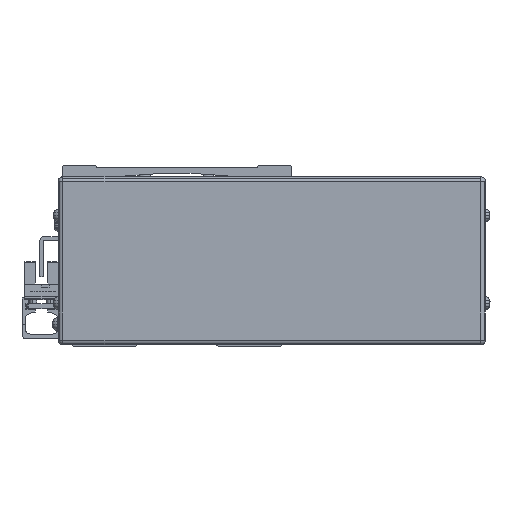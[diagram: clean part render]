
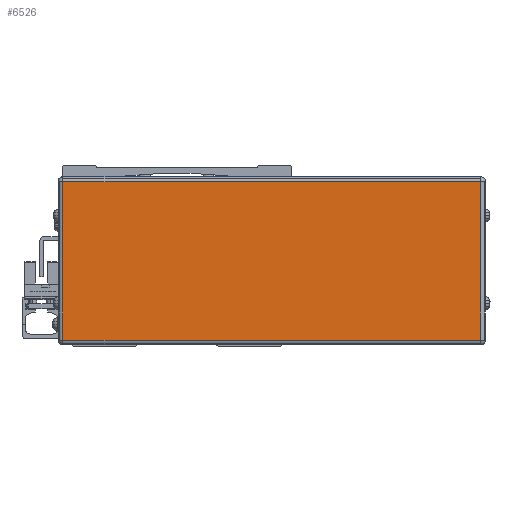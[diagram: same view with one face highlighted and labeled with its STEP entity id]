
A CAD part, front view. The second image highlights one B-rep face of the part: STEP entity #6526.
In plain terms, the highlighted planar face has unit normal (0, -1, 0).
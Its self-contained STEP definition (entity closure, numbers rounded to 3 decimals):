
#6526=ADVANCED_FACE('',(#13679),#13680,.T.);
#13679=FACE_OUTER_BOUND('',#22994,.T.);
#13680=PLANE('',#22995);
#22994=EDGE_LOOP('',(#41650,#41651,#41652,#41653));
#22995=AXIS2_PLACEMENT_3D('',#41654,#41655,#41656);
#41650=ORIENTED_EDGE('',*,*,#51091,.F.);
#41651=ORIENTED_EDGE('',*,*,#52525,.F.);
#41652=ORIENTED_EDGE('',*,*,#50610,.F.);
#41653=ORIENTED_EDGE('',*,*,#50939,.F.);
#41654=CARTESIAN_POINT('',(39.,-288.778,-42.5));
#41655=DIRECTION('',(0.0,-1.0,0.0));
#41656=DIRECTION('',(1.0,0.0,0.0));
#50610=EDGE_CURVE('',#61621,#61623,#61624,.T.);
#50939=EDGE_CURVE('',#59185,#61621,#62162,.T.);
#51091=EDGE_CURVE('',#62389,#59185,#62391,.T.);
#52525=EDGE_CURVE('',#61623,#62389,#64569,.T.);
#59185=VERTEX_POINT('',#73632);
#61621=VERTEX_POINT('',#77192);
#61623=VERTEX_POINT('',#77194);
#61624=LINE('',#77195,#77196);
#62162=LINE('',#77915,#77916);
#62389=VERTEX_POINT('',#78300);
#62391=LINE('',#78302,#78303);
#64569=LINE('',#81401,#81402);
#73632=CARTESIAN_POINT('',(-46.7,-288.778,-40.5));
#77192=CARTESIAN_POINT('',(-46.7,-288.778,24.5));
#77194=CARTESIAN_POINT('',(124.7,-288.778,24.5));
#77195=CARTESIAN_POINT('',(39.,-288.778,24.5));
#77196=VECTOR('',#92408,10.0);
#77915=CARTESIAN_POINT('',(-46.7,-288.778,-42.5));
#77916=VECTOR('',#92913,10.0);
#78300=CARTESIAN_POINT('',(124.7,-288.778,-40.5));
#78302=CARTESIAN_POINT('',(39.,-288.778,-40.5));
#78303=VECTOR('',#93081,10.0);
#81401=CARTESIAN_POINT('',(124.7,-288.778,-42.5));
#81402=VECTOR('',#94799,10.0);
#92408=DIRECTION('',(1.0,0.0,0.0));
#92913=DIRECTION('',(0.0,0.0,1.0));
#93081=DIRECTION('',(-1.0,0.0,0.0));
#94799=DIRECTION('',(0.0,0.0,-1.0));
